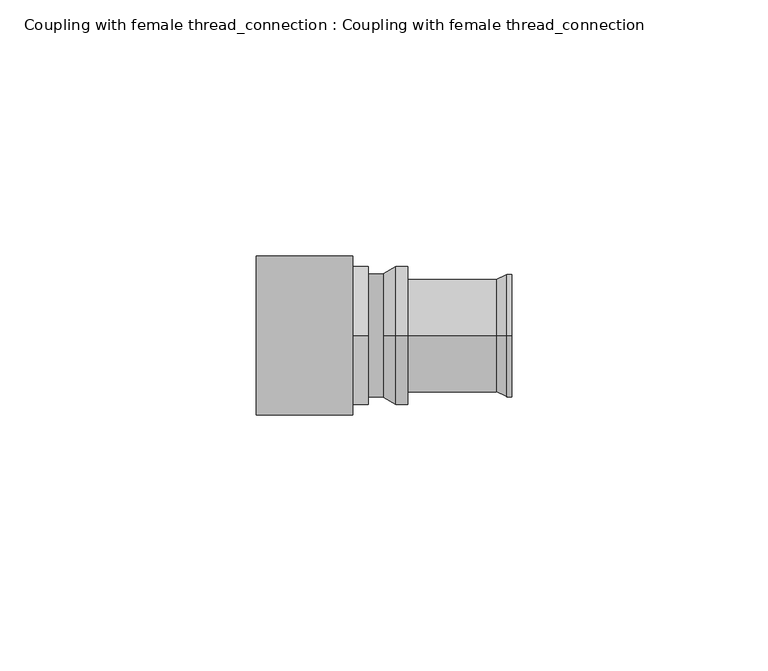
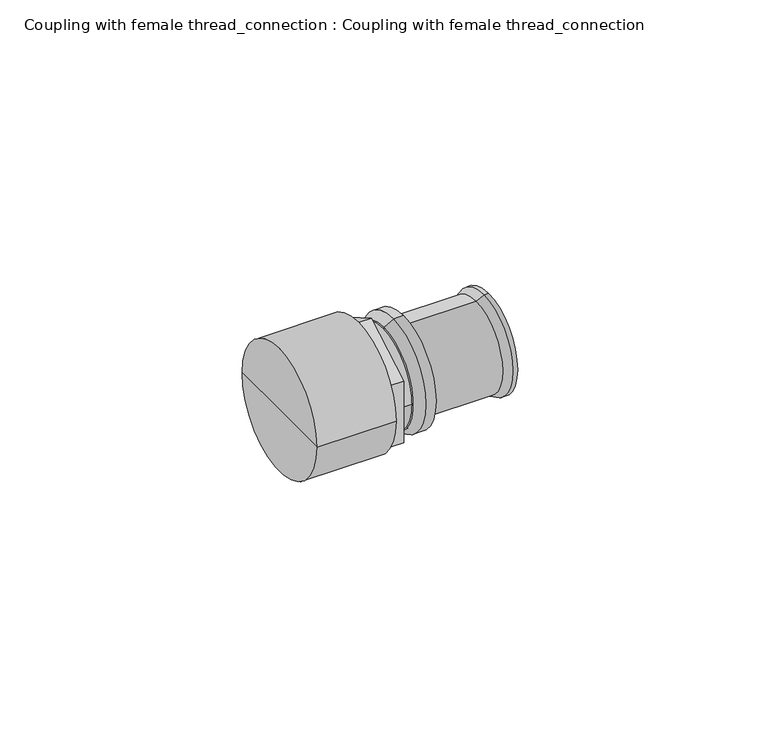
"""IFC4 building model written with IfcOpenShell, lengths in millimetres: pipe fitting geometry, Coupling with female thread_connection : Coupling with female thread_connection."""

from ifc_helpers import new_model, si_unit, frame, origin, place, context, project, spatial, polyline, circle_curve, source, transform, mapped, element, save
from ifc_brep_helpers import plane_surface, cylinder_surface, revolved_surface, advanced_brep


def coupling_with_female_thread_connection_coupling_with_female_c16d974f(model_context):
    return source(origin(), model_context, "Body", "AdvancedBrep", [
        advanced_brep(
        [(-1.0, 0.0, 0.0), (-1.0, 0.0, 12.1432269), (-1.0, 0.0, -12.1432269), (3.7, 0.0, -13.5), (3.7, 0.0, 13.5), (3.7, 0.0, 0.0), (1.35, 0.0, -13.5), (1.35, 0.0, 13.5)],
        [
            (0, 1),
            (1, 2, circle_curve(frame((-1.0, 0.0, 0.0), z_axis=(-1.0, 0.0, 0.0), x_axis=(0.0, 0.0, 1.0)), 12.1432269)),
            (2, 0),
            (2, 1, circle_curve(frame((-1.0, 0.0, 0.0), z_axis=(-1.0, 0.0, 0.0), x_axis=(0.0, 0.0, 1.0)), 12.1432269)),
            (3, 4, circle_curve(frame((3.7, 0.0, 0.0), z_axis=(1.0, 0.0, 0.0), x_axis=(0.0, 0.0, 1.0)), 13.5)),
            (4, 5),
            (5, 3),
            (4, 3, circle_curve(frame((3.7, 0.0, 0.0), z_axis=(1.0, 0.0, 0.0), x_axis=(0.0, 0.0, 1.0)), 13.5)),
            (6, 7, circle_curve(frame((1.35, 0.0, 0.0), z_axis=(1.0, 0.0, 0.0), x_axis=(0.0, 0.0, 1.0)), 13.5)),
            (7, 4),
            (3, 6),
            (7, 6, circle_curve(frame((1.35, 0.0, 0.0), z_axis=(1.0, 0.0, 0.0), x_axis=(0.0, 0.0, 1.0)), 13.5)),
            (1, 7),
            (6, 2),
        ],
        [
            plane_surface(frame((-1.0, 0.0, 0.0), z_axis=(-1.0, 0.0, 0.0), x_axis=(0.0, 0.0, 1.0))),
            plane_surface(frame((3.7, 0.0, 0.0), z_axis=(1.0, 0.0, 0.0), x_axis=(0.0, 0.0, 1.0))),
            cylinder_surface(frame((0.0, 0.0, 0.0), z_axis=(-1.0, 0.0, 0.0), x_axis=(0.0, 0.0, 1.0)), 13.5),
            revolved_surface(polyline([(1.35, 0.0, 13.5), (-1.0, 0.0, 12.1432269)]), (0.0, 0.0, 0.0), (-1.0, 0.0, 0.0)),
        ],
        [
            (0, [[1, 2, 3]]),
            (0, [[-3, 4, -1]]),
            (1, [[5, 6, 7]]),
            (1, [[8, -7, -6]]),
            (2, [[9, 10, -5, 11]]),
            (2, [[12, -11, -8, -10]]),
            (3, [[-2, 13, -9, 14]]),
            (3, [[-4, -14, -12, -13]]),
        ],
    ),
        advanced_brep(
        [(3.7, 0.0, -11.0), (3.7, 0.0, 11.0), (21.0, 0.0, 11.0), (21.0, 0.0, -11.0), (24.0, 0.0, -12.0), (24.0, 0.0, 12.0), (24.0, 0.0, 0.0), (3.7, 0.0, 0.0), (23.0, 0.0, -12.0), (23.0, 0.0, 12.0)],
        [
            (0, 1, circle_curve(frame((3.7, 0.0, 0.0), z_axis=(1.0, 0.0, 0.0), x_axis=(0.0, 0.0, 1.0)), 11.0)),
            (1, 2),
            (2, 3, circle_curve(frame((21.0, 0.0, 0.0), z_axis=(-1.0, 0.0, 0.0), x_axis=(0.0, 0.0, 1.0)), 11.0)),
            (3, 0),
            (1, 0, circle_curve(frame((3.7, 0.0, 0.0), z_axis=(1.0, 0.0, 0.0), x_axis=(0.0, 0.0, 1.0)), 11.0)),
            (3, 2, circle_curve(frame((21.0, 0.0, 0.0), z_axis=(-1.0, 0.0, 0.0), x_axis=(0.0, 0.0, 1.0)), 11.0)),
            (4, 5, circle_curve(frame((24.0, 0.0, 0.0), z_axis=(1.0, 0.0, 0.0), x_axis=(0.0, 0.0, 1.0)), 12.0)),
            (5, 6),
            (6, 4),
            (5, 4, circle_curve(frame((24.0, 0.0, 0.0), z_axis=(1.0, 0.0, 0.0), x_axis=(0.0, 0.0, 1.0)), 12.0)),
            (7, 1),
            (0, 7),
            (8, 9, circle_curve(frame((23.0, 0.0, 0.0), z_axis=(1.0, 0.0, 0.0), x_axis=(0.0, 0.0, 1.0)), 12.0)),
            (9, 5),
            (4, 8),
            (9, 8, circle_curve(frame((23.0, 0.0, 0.0), z_axis=(1.0, 0.0, 0.0), x_axis=(0.0, 0.0, 1.0)), 12.0)),
            (2, 9),
            (8, 3),
        ],
        [
            cylinder_surface(frame((-1911.8038476, 0.0, 0.0), z_axis=(-1.0, 0.0, 0.0), x_axis=(0.0, 0.0, 1.0)), 11.0),
            plane_surface(frame((24.0, 0.0, 0.0), z_axis=(1.0, 0.0, 0.0), x_axis=(0.0, 0.0, 1.0))),
            plane_surface(frame((3.7, 0.0, 0.0), z_axis=(-1.0, 0.0, 0.0), x_axis=(0.0, 0.0, 1.0))),
            cylinder_surface(frame((-1911.8038476, 0.0, 0.0), z_axis=(-1.0, 0.0, 0.0), x_axis=(0.0, 0.0, 1.0)), 12.0),
            revolved_surface(polyline([(23.0, 0.0, 12.0), (21.0, 0.0, 11.0)]), (-1911.8038476, 0.0, 0.0), (-1.0, 0.0, 0.0)),
        ],
        [
            (0, [[1, 2, 3, 4]]),
            (0, [[5, -4, 6, -2]]),
            (1, [[7, 8, 9]]),
            (1, [[10, -9, -8]]),
            (2, [[11, -1, 12]]),
            (2, [[-12, -5, -11]]),
            (3, [[13, 14, -7, 15]]),
            (3, [[16, -15, -10, -14]]),
            (4, [[-3, 17, -13, 18]]),
            (4, [[-6, -18, -16, -17]]),
        ],
    ),
        advanced_brep(
        [(-25.8426501, -15.5, 0.0), (-25.8426501, 15.5, 0.0), (-7.0, 15.5, 0.0), (-7.0, 13.4233938, -7.75), (-7.0, 0.0, -15.5), (-7.0, -13.4233938, -7.75), (-7.0, -15.5, 0.0), (-7.0, -13.4233938, 7.75), (-7.0, 0.0, 15.5), (-7.0, 13.4233938, 7.75), (-25.8426501, 0.0, 0.0), (0.0, -12.0, 0.0), (0.0, 12.0, 0.0), (0.0, 0.0, 0.0), (-4.0, -12.0, 0.0), (-4.0, 12.0, 0.0), (-7.0, 13.4233938, 0.0), (-7.0, -13.4233938, 0.0), (-4.0, -13.4233938, 7.75), (-4.0, -13.4233938, -7.75), (-4.0, 0.0, -15.5), (-4.0, 13.4233938, -7.75), (-4.0, 13.4233938, 7.75), (-4.0, 0.0, 15.5)],
        [
            (0, 1, circle_curve(frame((-25.8426501, 0.0, 0.0), z_axis=(1.0, 0.0, 0.0), x_axis=(0.0, 1.0, 0.0)), 15.5)),
            (1, 2),
            (2, 3, circle_curve(frame((-7.0, 0.0, 0.0), z_axis=(-1.0, 0.0, 0.0), x_axis=(0.0, 1.0, 0.0)), 15.5)),
            (3, 4, circle_curve(frame((-7.0, 0.0, 0.0), z_axis=(-1.0, 0.0, 0.0), x_axis=(0.0, 1.0, 0.0)), 15.5)),
            (4, 5, circle_curve(frame((-7.0, 0.0, 0.0), z_axis=(-1.0, 0.0, 0.0), x_axis=(0.0, 1.0, 0.0)), 15.5)),
            (5, 6, circle_curve(frame((-7.0, 0.0, 0.0), z_axis=(-1.0, 0.0, 0.0), x_axis=(0.0, 1.0, 0.0)), 15.5)),
            (6, 0),
            (1, 0, circle_curve(frame((-25.8426501, 0.0, 0.0), z_axis=(1.0, 0.0, 0.0), x_axis=(0.0, 1.0, 0.0)), 15.5)),
            (6, 7, circle_curve(frame((-7.0, 0.0, 0.0), z_axis=(-1.0, 0.0, 0.0), x_axis=(0.0, 1.0, 0.0)), 15.5)),
            (7, 8, circle_curve(frame((-7.0, 0.0, 0.0), z_axis=(-1.0, 0.0, 0.0), x_axis=(0.0, 1.0, 0.0)), 15.5)),
            (8, 9, circle_curve(frame((-7.0, 0.0, 0.0), z_axis=(-1.0, 0.0, 0.0), x_axis=(0.0, 1.0, 0.0)), 15.5)),
            (9, 2, circle_curve(frame((-7.0, 0.0, 0.0), z_axis=(-1.0, 0.0, 0.0), x_axis=(0.0, 1.0, 0.0)), 15.5)),
            (0, 10),
            (10, 1),
            (11, 12, circle_curve(frame((0.0, 0.0, 0.0), z_axis=(1.0, 0.0, 0.0), x_axis=(0.0, 1.0, 0.0)), 12.0)),
            (12, 13),
            (13, 11),
            (12, 11, circle_curve(frame((0.0, 0.0, 0.0), z_axis=(1.0, 0.0, 0.0), x_axis=(0.0, 1.0, 0.0)), 12.0)),
            (11, 14),
            (14, 15, circle_curve(frame((-4.0, 0.0, 0.0), z_axis=(1.0, 0.0, 0.0), x_axis=(0.0, 1.0, 0.0)), 12.0)),
            (15, 12),
            (15, 14, circle_curve(frame((-4.0, 0.0, 0.0), z_axis=(1.0, 0.0, 0.0), x_axis=(0.0, 1.0, 0.0)), 12.0)),
            (2, 16),
            (16, 3),
            (3, 4),
            (4, 5),
            (5, 17),
            (17, 6),
            (17, 7),
            (7, 8),
            (8, 9),
            (9, 16),
            (18, 19),
            (19, 20),
            (20, 21),
            (21, 22),
            (22, 23),
            (23, 18),
            (18, 7),
            (5, 19),
            (4, 20),
            (3, 21),
            (9, 22),
            (8, 23),
        ],
        [
            cylinder_surface(frame((0.0, 0.0, 0.0), z_axis=(-1.0, 0.0, 0.0), x_axis=(0.0, 1.0, 0.0)), 15.5),
            plane_surface(frame((-25.8426501, 0.0, 0.0), z_axis=(-1.0, 0.0, 0.0), x_axis=(0.0, 1.0, 0.0))),
            plane_surface(frame((0.0, 0.0, 0.0), z_axis=(1.0, 0.0, 0.0), x_axis=(0.0, 1.0, 0.0))),
            cylinder_surface(frame((0.0, 0.0, 0.0), z_axis=(-1.0, 0.0, 0.0), x_axis=(0.0, 1.0, 0.0)), 12.0),
            plane_surface(frame((-7.0, 0.0, 0.0), z_axis=(1.0, 0.0, 0.0), x_axis=(0.0, 1.0, 0.0))),
            plane_surface(frame((-4.0, -13.4233938, 7.75), z_axis=(1.0, 0.0, 0.0), x_axis=(0.0, 0.0, -1.0))),
            plane_surface(frame((-4.0, -13.4233938, 7.75), z_axis=(0.0, -1.0, 0.0), x_axis=(-1.0, 0.0, 0.0))),
            plane_surface(frame((-4.0, -13.4233938, -7.75), z_axis=(0.0, -0.5000000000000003, -0.8660254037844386), x_axis=(-1.0, 0.0, 0.0))),
            plane_surface(frame((-4.0, 0.0, -15.5), z_axis=(0.0, 0.5000000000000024, -0.8660254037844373), x_axis=(-1.0, 0.0, 0.0))),
            plane_surface(frame((-4.0, 13.4233938, -7.75), z_axis=(0.0, 1.0, 0.0), x_axis=(-1.0, 0.0, 0.0))),
            plane_surface(frame((-4.0, 13.4233938, 7.75), z_axis=(0.0, 0.5000000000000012, 0.866025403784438), x_axis=(-1.0, 0.0, 0.0))),
            plane_surface(frame((-4.0, 0.0, 15.5), z_axis=(0.0, -0.5000000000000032, 0.8660254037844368), x_axis=(-1.0, 0.0, 0.0))),
        ],
        [
            (0, [[1, 2, 3, 4, 5, 6, 7]]),
            (0, [[-2, 8, -7, 9, 10, 11, 12]]),
            (1, [[-1, 13, 14]]),
            (1, [[-8, -14, -13]]),
            (2, [[15, 16, 17]]),
            (2, [[-16, 18, -17]]),
            (3, [[-15, 19, 20, 21]]),
            (3, [[-18, -21, 22, -19]]),
            (4, [[-3, 23, 24]]),
            (4, [[-4, 25]]),
            (4, [[-5, 26]]),
            (4, [[-6, 27, 28]]),
            (4, [[-9, -28, 29]]),
            (4, [[-10, 30]]),
            (4, [[-11, 31]]),
            (4, [[-12, 32, -23]]),
            (5, [[33, 34, 35, 36, 37, 38], [-20, -22]]),
            (6, [[-33, 39, -29, -27, 40]]),
            (7, [[-34, -40, -26, 41]]),
            (8, [[-35, -41, -25, 42]]),
            (9, [[-36, -42, -24, -32, 43]]),
            (10, [[-37, -43, -31, 44]]),
            (11, [[-38, -44, -30, -39]]),
        ],
    ),
    ])


if __name__ == "__main__":
    model = new_model("IFC4")
    model_context = context("Model", 3, world=origin())
    ifc_project = project(units=[si_unit("LENGTHUNIT", "METRE", prefix="MILLI")], contexts=[model_context])
    site = spatial("IfcSite", under=ifc_project)
    building = spatial("IfcBuilding", under=site)
    placement = place(None, origin())
    coupling_with_female_thread_connection_coupling_with_female_shape = coupling_with_female_thread_connection_coupling_with_female_c16d974f(model_context)
    element("IfcPipeFitting", 1, ObjectType="Coupling with female thread_connection : Coupling with female thread_connection", at=placement, inside=building, context=model_context, shape_type="MappedRepresentation", body=[
        mapped(coupling_with_female_thread_connection_coupling_with_female_shape, transform((0.0, 0.0, 0.0), x_axis=(1.0, 0.0, 0.0), y_axis=(0.0, 1.0, 0.0), z_axis=(0.0, 0.0, 1.0))),
    ])
    save(model, "model.ifc")
